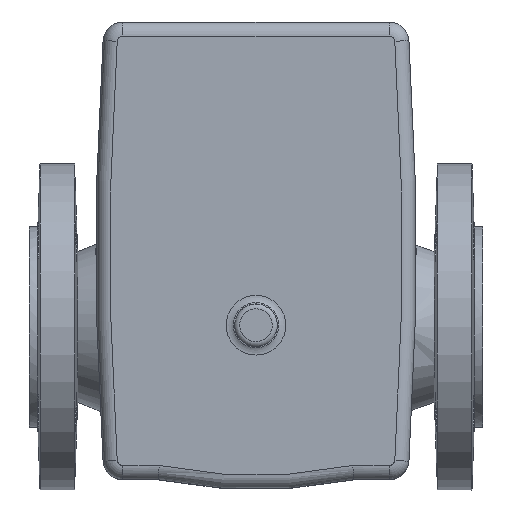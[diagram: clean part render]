
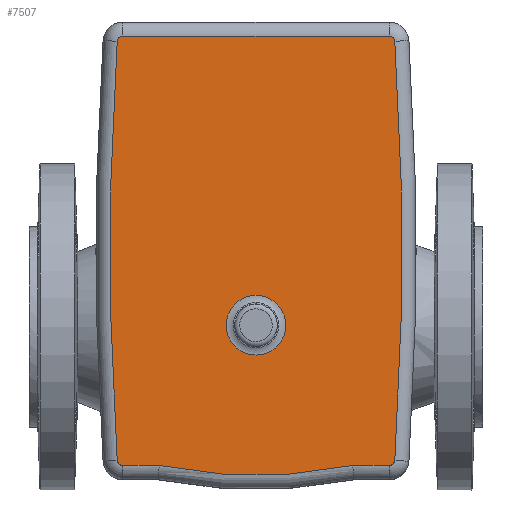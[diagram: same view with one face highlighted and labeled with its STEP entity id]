
A CAD part, top view. The second image highlights one B-rep face of the part: STEP entity #7507.
In plain terms, the highlighted planar face has unit normal (0, 0, 1).
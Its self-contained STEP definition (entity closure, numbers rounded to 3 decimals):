
#542=LINE('',#11259,#885);
#543=LINE('',#11277,#886);
#544=LINE('',#11295,#887);
#885=VECTOR('',#9532,1000.);
#886=VECTOR('',#9539,1000.);
#887=VECTOR('',#9564,1000.);
#1132=CIRCLE('',#8075,169.964);
#1135=CIRCLE('',#8080,1.964);
#1137=CIRCLE('',#8083,1096.964);
#1139=CIRCLE('',#8086,1.964);
#1141=CIRCLE('',#8090,1.964);
#1143=CIRCLE('',#8093,1096.964);
#1145=CIRCLE('',#8096,1.964);
#1147=CIRCLE('',#8101,10.521);
#2461=ORIENTED_EDGE('',*,*,#3295,.F.);
#2462=ORIENTED_EDGE('',*,*,#3292,.F.);
#2463=ORIENTED_EDGE('',*,*,#3290,.F.);
#2464=ORIENTED_EDGE('',*,*,#3288,.F.);
#2465=ORIENTED_EDGE('',*,*,#3306,.F.);
#2466=ORIENTED_EDGE('',*,*,#3304,.F.);
#2467=ORIENTED_EDGE('',*,*,#3302,.F.);
#2468=ORIENTED_EDGE('',*,*,#3301,.F.);
#2469=ORIENTED_EDGE('',*,*,#3299,.F.);
#2470=ORIENTED_EDGE('',*,*,#3297,.F.);
#2471=ORIENTED_EDGE('',*,*,#3308,.T.);
#3288=EDGE_CURVE('',#3813,#3814,#542,.T.);
#3290=EDGE_CURVE('',#3814,#3815,#1132,.T.);
#3292=EDGE_CURVE('',#3815,#3816,#543,.T.);
#3295=EDGE_CURVE('',#3816,#3817,#1135,.T.);
#3297=EDGE_CURVE('',#3817,#3818,#1137,.T.);
#3299=EDGE_CURVE('',#3818,#3819,#1139,.T.);
#3301=EDGE_CURVE('',#3819,#3820,#544,.T.);
#3302=EDGE_CURVE('',#3820,#3821,#1141,.T.);
#3304=EDGE_CURVE('',#3821,#3822,#1143,.T.);
#3306=EDGE_CURVE('',#3822,#3813,#1145,.T.);
#3308=EDGE_CURVE('',#3824,#3824,#1147,.T.);
#3813=VERTEX_POINT('',#11258);
#3814=VERTEX_POINT('',#11260);
#3815=VERTEX_POINT('',#11269);
#3816=VERTEX_POINT('',#11278);
#3817=VERTEX_POINT('',#11282);
#3818=VERTEX_POINT('',#11286);
#3819=VERTEX_POINT('',#11290);
#3820=VERTEX_POINT('',#11294);
#3821=VERTEX_POINT('',#11298);
#3822=VERTEX_POINT('',#11302);
#3824=VERTEX_POINT('',#11312);
#4316=EDGE_LOOP('',(#2461,#2462,#2463,#2464,#2465,#2466,#2467,#2468,#2469,
#2470));
#4317=EDGE_LOOP('',(#2471));
#4733=FACE_BOUND('',#4316,.T.);
#4734=FACE_BOUND('',#4317,.T.);
#4960=PLANE('',#8100);
#7507=ADVANCED_FACE('',(#4733,#4734),#4960,.F.);
#8075=AXIS2_PLACEMENT_3D('',#11268,#9535,#9536);
#8080=AXIS2_PLACEMENT_3D('',#11283,#9546,#9547);
#8083=AXIS2_PLACEMENT_3D('',#11287,#9552,#9553);
#8086=AXIS2_PLACEMENT_3D('',#11291,#9558,#9559);
#8090=AXIS2_PLACEMENT_3D('',#11297,#9567,#9568);
#8093=AXIS2_PLACEMENT_3D('',#11301,#9573,#9574);
#8096=AXIS2_PLACEMENT_3D('',#11305,#9579,#9580);
#8100=AXIS2_PLACEMENT_3D('',#11310,#9587,#9588);
#8101=AXIS2_PLACEMENT_3D('',#11311,#9589,#9590);
#9532=DIRECTION('',(-1.,0.,0.));
#9535=DIRECTION('',(0.,0.,-1.));
#9536=DIRECTION('',(0.,-1.,0.));
#9539=DIRECTION('',(-1.,0.,0.));
#9546=DIRECTION('',(0.,0.,-1.));
#9547=DIRECTION('',(0.,-1.,0.));
#9552=DIRECTION('',(0.,0.,-1.));
#9553=DIRECTION('',(0.,-1.,0.));
#9558=DIRECTION('',(0.,0.,-1.));
#9559=DIRECTION('',(0.,-1.,0.));
#9564=DIRECTION('',(1.,0.,0.));
#9567=DIRECTION('',(0.,0.,-1.));
#9568=DIRECTION('',(0.,-1.,0.));
#9573=DIRECTION('',(0.,0.,-1.));
#9574=DIRECTION('',(0.,-1.,0.));
#9579=DIRECTION('',(0.,0.,-1.));
#9580=DIRECTION('',(0.,-1.,0.));
#9587=DIRECTION('',(0.,0.,-1.));
#9588=DIRECTION('',(0.,-1.,0.));
#9589=DIRECTION('',(0.,0.,-1.));
#9590=DIRECTION('',(0.,-1.,0.));
#11258=CARTESIAN_POINT('',(50.11,-28.605,340.142));
#11259=CARTESIAN_POINT('',(50.11,-28.605,340.142));
#11260=CARTESIAN_POINT('',(37.206,-28.605,340.142));
#11268=CARTESIAN_POINT('',(3.11,137.904,340.142));
#11269=CARTESIAN_POINT('',(-30.986,-28.605,340.142));
#11277=CARTESIAN_POINT('',(-31.489,-28.605,340.142));
#11278=CARTESIAN_POINT('',(-43.89,-28.605,340.142));
#11282=CARTESIAN_POINT('',(-45.85,-26.773,340.142));
#11283=CARTESIAN_POINT('',(-43.89,-26.64,340.142));
#11286=CARTESIAN_POINT('',(-45.85,120.999,340.142));
#11287=CARTESIAN_POINT('',(1048.623,47.113,340.142));
#11290=CARTESIAN_POINT('',(-43.89,122.832,340.142));
#11291=CARTESIAN_POINT('',(-43.89,120.867,340.142));
#11294=CARTESIAN_POINT('',(50.11,122.832,340.142));
#11295=CARTESIAN_POINT('',(-43.89,122.832,340.142));
#11297=CARTESIAN_POINT('',(50.11,120.867,340.142));
#11298=CARTESIAN_POINT('',(52.07,120.999,340.142));
#11301=CARTESIAN_POINT('',(-1042.403,47.113,340.142));
#11302=CARTESIAN_POINT('',(52.07,-26.773,340.142));
#11305=CARTESIAN_POINT('',(50.11,-26.64,340.142));
#11310=CARTESIAN_POINT('',(3.11,20.867,340.142));
#11311=CARTESIAN_POINT('',(3.11,20.867,340.142));
#11312=CARTESIAN_POINT('',(3.11,10.346,340.142));
